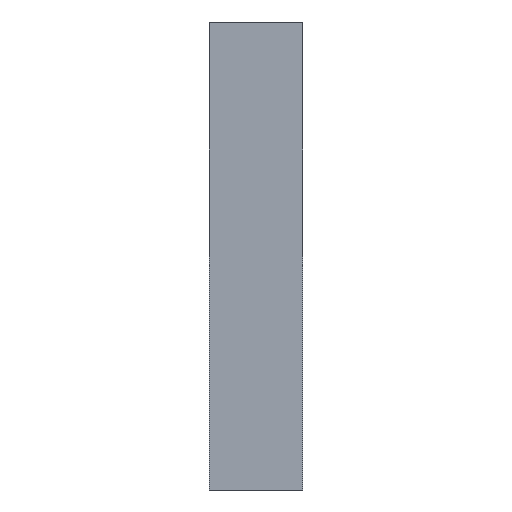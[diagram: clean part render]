
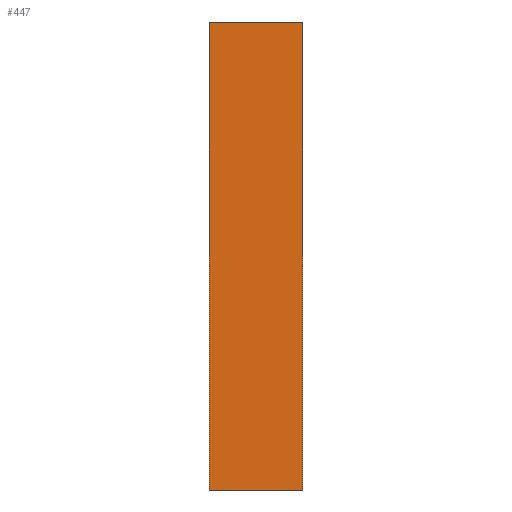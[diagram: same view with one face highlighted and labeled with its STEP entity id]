
A CAD part, front view. The second image highlights one B-rep face of the part: STEP entity #447.
In plain terms, the highlighted planar face has unit normal (0, -1, 0).
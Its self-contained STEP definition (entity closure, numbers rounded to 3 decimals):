
#7 = DIRECTION ( 'NONE',  ( 0., 0., 1. ) ) ;
#27 = EDGE_CURVE ( 'NONE', #654, #96, #540, .T. ) ;
#41 = VECTOR ( 'NONE', #7, 1000. ) ;
#59 = PLANE ( 'NONE',  #142 ) ;
#65 = LINE ( 'NONE', #547, #41 ) ;
#73 = DIRECTION ( 'NONE',  ( 0., 0., -1. ) ) ;
#84 = CARTESIAN_POINT ( 'NONE',  ( -115.12, -276., -419. ) ) ;
#96 = VERTEX_POINT ( 'NONE', #189 ) ;
#100 = EDGE_LOOP ( 'NONE', ( #163, #373, #151, #730 ) ) ;
#138 = DIRECTION ( 'NONE',  ( -1., 0., 0. ) ) ;
#142 = AXIS2_PLACEMENT_3D ( 'NONE', #619, #323, #441 ) ;
#151 = ORIENTED_EDGE ( 'NONE', *, *, #27, .T. ) ;
#163 = ORIENTED_EDGE ( 'NONE', *, *, #213, .T. ) ;
#189 = CARTESIAN_POINT ( 'NONE',  ( -115.12, -276., -469. ) ) ;
#192 = VERTEX_POINT ( 'NONE', #254 ) ;
#203 = EDGE_CURVE ( 'NONE', #192, #654, #563, .T. ) ;
#213 = EDGE_CURVE ( 'NONE', #262, #192, #258, .T. ) ;
#254 = CARTESIAN_POINT ( 'NONE',  ( -125.12, -276., -419. ) ) ;
#258 = LINE ( 'NONE', #84, #295 ) ;
#262 = VERTEX_POINT ( 'NONE', #272 ) ;
#263 = CARTESIAN_POINT ( 'NONE',  ( -125.12, -276., -419. ) ) ;
#272 = CARTESIAN_POINT ( 'NONE',  ( -115.12, -276., -419. ) ) ;
#291 = CARTESIAN_POINT ( 'NONE',  ( -125.12, -276., -469. ) ) ;
#295 = VECTOR ( 'NONE', #138, 1000. ) ;
#323 = DIRECTION ( 'NONE',  ( 0., -1., 0. ) ) ;
#373 = ORIENTED_EDGE ( 'NONE', *, *, #203, .T. ) ;
#441 = DIRECTION ( 'NONE',  ( -1., 0., 0. ) ) ;
#447 = ADVANCED_FACE ( 'NONE', ( #477 ), #59, .T. ) ;
#477 = FACE_OUTER_BOUND ( 'NONE', #100, .T. ) ;
#482 = CARTESIAN_POINT ( 'NONE',  ( -125.12, -276., -469. ) ) ;
#526 = EDGE_CURVE ( 'NONE', #96, #262, #65, .T. ) ;
#540 = LINE ( 'NONE', #482, #557 ) ;
#545 = VECTOR ( 'NONE', #73, 1000. ) ;
#547 = CARTESIAN_POINT ( 'NONE',  ( -115.12, -276., -469. ) ) ;
#557 = VECTOR ( 'NONE', #721, 1000. ) ;
#563 = LINE ( 'NONE', #263, #545 ) ;
#619 = CARTESIAN_POINT ( 'NONE',  ( -125.12, -276., -444. ) ) ;
#654 = VERTEX_POINT ( 'NONE', #291 ) ;
#721 = DIRECTION ( 'NONE',  ( 1., 0., 0. ) ) ;
#730 = ORIENTED_EDGE ( 'NONE', *, *, #526, .T. ) ;
